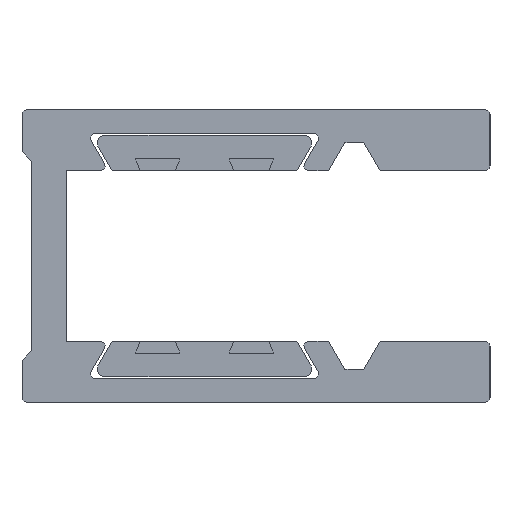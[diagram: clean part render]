
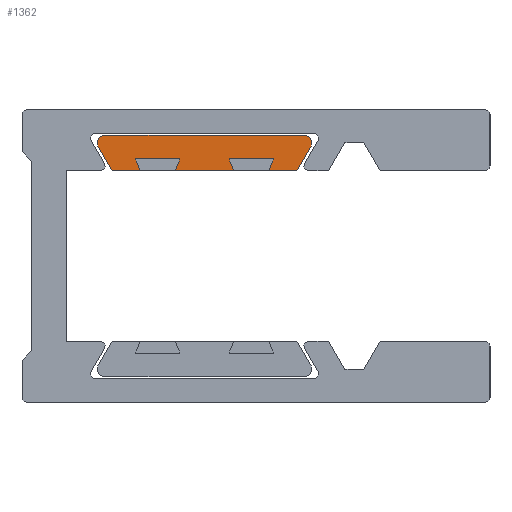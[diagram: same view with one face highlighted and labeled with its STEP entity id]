
A CAD part, left-side view. The second image highlights one B-rep face of the part: STEP entity #1362.
In plain terms, the highlighted planar face has unit normal (-1, 0, 0).
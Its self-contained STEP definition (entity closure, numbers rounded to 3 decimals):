
#20 = EDGE_CURVE ( 'NONE', #3067, #3320, #3236, .T. ) ;
#119 = DIRECTION ( 'NONE',  ( 0., -1., 0. ) ) ;
#120 = VERTEX_POINT ( 'NONE', #1990 ) ;
#151 = VERTEX_POINT ( 'NONE', #2044 ) ;
#228 = PLANE ( 'NONE',  #3501 ) ;
#252 = LINE ( 'NONE', #474, #1246 ) ;
#262 = DIRECTION ( 'NONE',  ( 0., -0.866, -0.5 ) ) ;
#273 = VECTOR ( 'NONE', #2839, 1000. ) ;
#294 = ORIENTED_EDGE ( 'NONE', *, *, #2377, .F. ) ;
#304 = DIRECTION ( 'NONE',  ( 0., -0.371, -0.928 ) ) ;
#474 = CARTESIAN_POINT ( 'NONE',  ( -500., 16.15, 3.65 ) ) ;
#482 = DIRECTION ( 'NONE',  ( -1., 0., 0. ) ) ;
#486 = EDGE_LOOP ( 'NONE', ( #1072, #2245, #1254, #2419, #2910, #1714, #294, #919, #3590, #2689, #3125, #3136, #2166, #3634 ) ) ;
#529 = DIRECTION ( 'NONE',  ( 0., 1., 0. ) ) ;
#549 = CARTESIAN_POINT ( 'NONE',  ( -500., 0., 0. ) ) ;
#551 = LINE ( 'NONE', #1658, #1335 ) ;
#590 = LINE ( 'NONE', #1087, #2660 ) ;
#591 = CARTESIAN_POINT ( 'NONE',  ( -500., 7.644, 4.7 ) ) ;
#637 = EDGE_CURVE ( 'NONE', #2976, #1354, #2638, .T. ) ;
#651 = EDGE_CURVE ( 'NONE', #3320, #2855, #863, .T. ) ;
#652 = LINE ( 'NONE', #1989, #1492 ) ;
#701 = CARTESIAN_POINT ( 'NONE',  ( -500., 8.25, 3.65 ) ) ;
#720 = EDGE_CURVE ( 'NONE', #2912, #3067, #1722, .T. ) ;
#772 = CARTESIAN_POINT ( 'NONE',  ( -500., 16.496, 4.85 ) ) ;
#863 = LINE ( 'NONE', #1683, #273 ) ;
#873 = VERTEX_POINT ( 'NONE', #1083 ) ;
#914 = CARTESIAN_POINT ( 'NONE',  ( -500., 16.496, 5.15 ) ) ;
#919 = ORIENTED_EDGE ( 'NONE', *, *, #3076, .F. ) ;
#1020 = CARTESIAN_POINT ( 'NONE',  ( -500., 15.15, 4.15 ) ) ;
#1072 = ORIENTED_EDGE ( 'NONE', *, *, #1831, .F. ) ;
#1083 = CARTESIAN_POINT ( 'NONE',  ( -500., 14.95, 3.65 ) ) ;
#1087 = CARTESIAN_POINT ( 'NONE',  ( -500., 9.25, 4.15 ) ) ;
#1132 = AXIS2_PLACEMENT_3D ( 'NONE', #1148, #3395, #262 ) ;
#1134 = LINE ( 'NONE', #2519, #2420 ) ;
#1147 = CARTESIAN_POINT ( 'NONE',  ( -500., 16.496, 5.15 ) ) ;
#1148 = CARTESIAN_POINT ( 'NONE',  ( -500., 7.904, 4.85 ) ) ;
#1156 = DIRECTION ( 'NONE',  ( 0., 1., 0. ) ) ;
#1246 = VECTOR ( 'NONE', #2207, 1000. ) ;
#1254 = ORIENTED_EDGE ( 'NONE', *, *, #1350, .F. ) ;
#1268 = EDGE_CURVE ( 'NONE', #2855, #1635, #590, .T. ) ;
#1335 = VECTOR ( 'NONE', #304, 1000. ) ;
#1350 = EDGE_CURVE ( 'NONE', #2483, #1354, #252, .T. ) ;
#1351 = EDGE_CURVE ( 'NONE', #2912, #1735, #1407, .T. ) ;
#1354 = VERTEX_POINT ( 'NONE', #2796 ) ;
#1362 = ADVANCED_FACE ( 'NONE', ( #1672 ), #228, .F. ) ;
#1407 = CIRCLE ( 'NONE', #1132, 0.3 ) ;
#1428 = EDGE_CURVE ( 'NONE', #2009, #873, #1134, .T. ) ;
#1492 = VECTOR ( 'NONE', #3129, 1000. ) ;
#1542 = VECTOR ( 'NONE', #2717, 1000. ) ;
#1635 = VERTEX_POINT ( 'NONE', #3584 ) ;
#1658 = CARTESIAN_POINT ( 'NONE',  ( -500., 11.15, 4.15 ) ) ;
#1668 = CARTESIAN_POINT ( 'NONE',  ( -500., 7.644, 4.7 ) ) ;
#1672 = FACE_OUTER_BOUND ( 'NONE', #486, .T. ) ;
#1683 = CARTESIAN_POINT ( 'NONE',  ( -500., 9.45, 3.65 ) ) ;
#1700 = VECTOR ( 'NONE', #1783, 1000. ) ;
#1702 = DIRECTION ( 'NONE',  ( 0., 0.5, -0.866 ) ) ;
#1714 = ORIENTED_EDGE ( 'NONE', *, *, #3458, .F. ) ;
#1722 = LINE ( 'NONE', #591, #2341 ) ;
#1735 = VERTEX_POINT ( 'NONE', #2268 ) ;
#1783 = DIRECTION ( 'NONE',  ( 0., 1., 0. ) ) ;
#1831 = EDGE_CURVE ( 'NONE', #2976, #1735, #2629, .T. ) ;
#1863 = VERTEX_POINT ( 'NONE', #2591 ) ;
#1872 = VECTOR ( 'NONE', #2200, 1000. ) ;
#1989 = CARTESIAN_POINT ( 'NONE',  ( -500., 14.95, 3.65 ) ) ;
#1990 = CARTESIAN_POINT ( 'NONE',  ( -500., 13.25, 4.15 ) ) ;
#2009 = VERTEX_POINT ( 'NONE', #1020 ) ;
#2044 = CARTESIAN_POINT ( 'NONE',  ( -500., 13.45, 3.65 ) ) ;
#2089 = DIRECTION ( 'NONE',  ( 0., -0.371, 0.928 ) ) ;
#2166 = ORIENTED_EDGE ( 'NONE', *, *, #720, .F. ) ;
#2200 = DIRECTION ( 'NONE',  ( 0., 1., 0. ) ) ;
#2207 = DIRECTION ( 'NONE',  ( 0., 0.5, 0.866 ) ) ;
#2245 = ORIENTED_EDGE ( 'NONE', *, *, #637, .T. ) ;
#2254 = EDGE_CURVE ( 'NONE', #873, #2483, #652, .T. ) ;
#2263 = DIRECTION ( 'NONE',  ( 0., -0.371, -0.928 ) ) ;
#2268 = CARTESIAN_POINT ( 'NONE',  ( -500., 7.904, 5.15 ) ) ;
#2314 = LINE ( 'NONE', #3148, #1700 ) ;
#2341 = VECTOR ( 'NONE', #1702, 1000. ) ;
#2377 = EDGE_CURVE ( 'NONE', #151, #120, #2654, .T. ) ;
#2381 = CARTESIAN_POINT ( 'NONE',  ( -500., 13.45, 3.65 ) ) ;
#2419 = ORIENTED_EDGE ( 'NONE', *, *, #2254, .F. ) ;
#2420 = VECTOR ( 'NONE', #2263, 1000. ) ;
#2455 = EDGE_CURVE ( 'NONE', #1635, #1863, #551, .T. ) ;
#2456 = VECTOR ( 'NONE', #2089, 1000. ) ;
#2483 = VERTEX_POINT ( 'NONE', #2907 ) ;
#2516 = AXIS2_PLACEMENT_3D ( 'NONE', #772, #482, #3587 ) ;
#2519 = CARTESIAN_POINT ( 'NONE',  ( -500., 15.15, 4.15 ) ) ;
#2591 = CARTESIAN_POINT ( 'NONE',  ( -500., 10.95, 3.65 ) ) ;
#2629 = LINE ( 'NONE', #914, #3227 ) ;
#2638 = CIRCLE ( 'NONE', #2516, 0.3 ) ;
#2654 = LINE ( 'NONE', #2381, #2456 ) ;
#2660 = VECTOR ( 'NONE', #1156, 1000. ) ;
#2689 = ORIENTED_EDGE ( 'NONE', *, *, #1268, .F. ) ;
#2717 = DIRECTION ( 'NONE',  ( 0., 1., 0. ) ) ;
#2720 = CARTESIAN_POINT ( 'NONE',  ( -500., 13.25, 4.15 ) ) ;
#2738 = LINE ( 'NONE', #2720, #1872 ) ;
#2793 = CARTESIAN_POINT ( 'NONE',  ( -500., 9.25, 4.15 ) ) ;
#2796 = CARTESIAN_POINT ( 'NONE',  ( -500., 16.756, 4.7 ) ) ;
#2817 = DIRECTION ( 'NONE',  ( 1., 0., 0. ) ) ;
#2839 = DIRECTION ( 'NONE',  ( 0., -0.371, 0.928 ) ) ;
#2855 = VERTEX_POINT ( 'NONE', #2793 ) ;
#2907 = CARTESIAN_POINT ( 'NONE',  ( -500., 16.15, 3.65 ) ) ;
#2910 = ORIENTED_EDGE ( 'NONE', *, *, #1428, .F. ) ;
#2912 = VERTEX_POINT ( 'NONE', #1668 ) ;
#2976 = VERTEX_POINT ( 'NONE', #1147 ) ;
#3067 = VERTEX_POINT ( 'NONE', #3127 ) ;
#3076 = EDGE_CURVE ( 'NONE', #1863, #151, #2314, .T. ) ;
#3125 = ORIENTED_EDGE ( 'NONE', *, *, #651, .F. ) ;
#3127 = CARTESIAN_POINT ( 'NONE',  ( -500., 8.25, 3.65 ) ) ;
#3129 = DIRECTION ( 'NONE',  ( 0., 1., 0. ) ) ;
#3136 = ORIENTED_EDGE ( 'NONE', *, *, #20, .F. ) ;
#3148 = CARTESIAN_POINT ( 'NONE',  ( -500., 10.95, 3.65 ) ) ;
#3227 = VECTOR ( 'NONE', #119, 1000. ) ;
#3236 = LINE ( 'NONE', #701, #1542 ) ;
#3320 = VERTEX_POINT ( 'NONE', #3481 ) ;
#3395 = DIRECTION ( 'NONE',  ( -1., 0., 0. ) ) ;
#3458 = EDGE_CURVE ( 'NONE', #120, #2009, #2738, .T. ) ;
#3481 = CARTESIAN_POINT ( 'NONE',  ( -500., 9.45, 3.65 ) ) ;
#3501 = AXIS2_PLACEMENT_3D ( 'NONE', #549, #2817, #529 ) ;
#3584 = CARTESIAN_POINT ( 'NONE',  ( -500., 11.15, 4.15 ) ) ;
#3587 = DIRECTION ( 'NONE',  ( 0., 0., 1. ) ) ;
#3590 = ORIENTED_EDGE ( 'NONE', *, *, #2455, .F. ) ;
#3634 = ORIENTED_EDGE ( 'NONE', *, *, #1351, .T. ) ;
